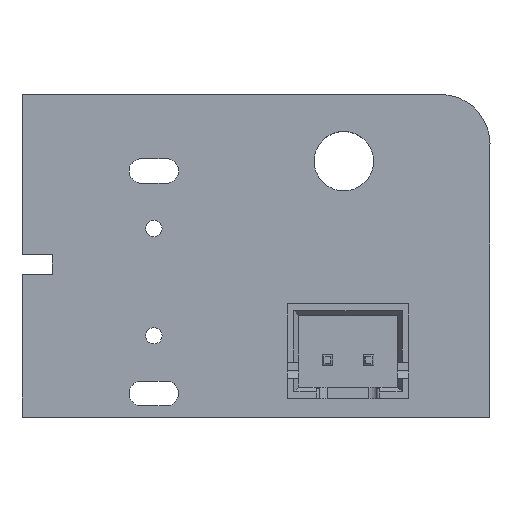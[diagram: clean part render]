
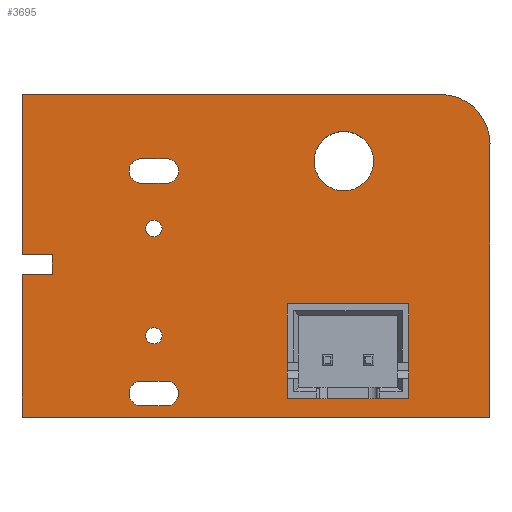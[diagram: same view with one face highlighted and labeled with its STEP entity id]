
A CAD part, top view. The second image highlights one B-rep face of the part: STEP entity #3695.
In plain terms, the highlighted planar face has unit normal (0, 0, 1).
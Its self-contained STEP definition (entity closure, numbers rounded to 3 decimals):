
#3406 = VERTEX_POINT('',#3407);
#3407 = CARTESIAN_POINT('',(66.945,-31.03,1.51));
#3413 = EDGE_CURVE('',#3406,#3414,#3416,.T.);
#3414 = VERTEX_POINT('',#3415);
#3415 = CARTESIAN_POINT('',(69.945,-34.019,1.51));
#3416 = CIRCLE('',#3417,3.);
#3417 = AXIS2_PLACEMENT_3D('',#3418,#3419,#3420);
#3418 = CARTESIAN_POINT('',(66.945,-34.03,1.51));
#3419 = DIRECTION('',(0.,0.,-1.));
#3420 = DIRECTION('',(0.,1.,0.));
#3448 = VERTEX_POINT('',#3449);
#3449 = CARTESIAN_POINT('',(41.55,-31.03,1.51));
#3455 = EDGE_CURVE('',#3448,#3406,#3456,.T.);
#3456 = LINE('',#3457,#3458);
#3457 = CARTESIAN_POINT('',(41.55,-31.03,1.51));
#3458 = VECTOR('',#3459,1.);
#3459 = DIRECTION('',(1.,0.,0.));
#3477 = EDGE_CURVE('',#3414,#3478,#3480,.T.);
#3478 = VERTEX_POINT('',#3479);
#3479 = CARTESIAN_POINT('',(69.945,-50.63,1.51));
#3480 = LINE('',#3481,#3482);
#3481 = CARTESIAN_POINT('',(69.945,-34.019,1.51));
#3482 = VECTOR('',#3483,1.);
#3483 = DIRECTION('',(0.,-1.,0.));
#3695 = ADVANCED_FACE('',(#3696,#3755,#3791,#3802,#3813,#3824,#3835,
    #3871),#3882,.T.);
#3696 = FACE_BOUND('',#3697,.T.);
#3697 = EDGE_LOOP('',(#3698,#3699,#3700,#3708,#3716,#3724,#3732,#3740,
    #3748,#3754));
#3698 = ORIENTED_EDGE('',*,*,#3413,.F.);
#3699 = ORIENTED_EDGE('',*,*,#3455,.F.);
#3700 = ORIENTED_EDGE('',*,*,#3701,.F.);
#3701 = EDGE_CURVE('',#3702,#3448,#3704,.T.);
#3702 = VERTEX_POINT('',#3703);
#3703 = CARTESIAN_POINT('',(41.55,-40.75,1.51));
#3704 = LINE('',#3705,#3706);
#3705 = CARTESIAN_POINT('',(41.55,-40.75,1.51));
#3706 = VECTOR('',#3707,1.);
#3707 = DIRECTION('',(0.,1.,0.));
#3708 = ORIENTED_EDGE('',*,*,#3709,.F.);
#3709 = EDGE_CURVE('',#3710,#3702,#3712,.T.);
#3710 = VERTEX_POINT('',#3711);
#3711 = CARTESIAN_POINT('',(43.4,-40.75,1.51));
#3712 = LINE('',#3713,#3714);
#3713 = CARTESIAN_POINT('',(43.4,-40.75,1.51));
#3714 = VECTOR('',#3715,1.);
#3715 = DIRECTION('',(-1.,0.,0.));
#3716 = ORIENTED_EDGE('',*,*,#3717,.F.);
#3717 = EDGE_CURVE('',#3718,#3710,#3720,.T.);
#3718 = VERTEX_POINT('',#3719);
#3719 = CARTESIAN_POINT('',(43.4,-41.95,1.51));
#3720 = LINE('',#3721,#3722);
#3721 = CARTESIAN_POINT('',(43.4,-41.95,1.51));
#3722 = VECTOR('',#3723,1.);
#3723 = DIRECTION('',(0.,1.,0.));
#3724 = ORIENTED_EDGE('',*,*,#3725,.F.);
#3725 = EDGE_CURVE('',#3726,#3718,#3728,.T.);
#3726 = VERTEX_POINT('',#3727);
#3727 = CARTESIAN_POINT('',(41.55,-41.95,1.51));
#3728 = LINE('',#3729,#3730);
#3729 = CARTESIAN_POINT('',(41.55,-41.95,1.51));
#3730 = VECTOR('',#3731,1.);
#3731 = DIRECTION('',(1.,0.,0.));
#3732 = ORIENTED_EDGE('',*,*,#3733,.F.);
#3733 = EDGE_CURVE('',#3734,#3726,#3736,.T.);
#3734 = VERTEX_POINT('',#3735);
#3735 = CARTESIAN_POINT('',(41.55,-48.887,1.51));
#3736 = LINE('',#3737,#3738);
#3737 = CARTESIAN_POINT('',(41.55,-48.887,1.51));
#3738 = VECTOR('',#3739,1.);
#3739 = DIRECTION('',(0.,1.,0.));
#3740 = ORIENTED_EDGE('',*,*,#3741,.F.);
#3741 = EDGE_CURVE('',#3742,#3734,#3744,.T.);
#3742 = VERTEX_POINT('',#3743);
#3743 = CARTESIAN_POINT('',(41.55,-50.63,1.51));
#3744 = LINE('',#3745,#3746);
#3745 = CARTESIAN_POINT('',(41.55,-50.63,1.51));
#3746 = VECTOR('',#3747,1.);
#3747 = DIRECTION('',(0.,1.,0.));
#3748 = ORIENTED_EDGE('',*,*,#3749,.F.);
#3749 = EDGE_CURVE('',#3478,#3742,#3750,.T.);
#3750 = LINE('',#3751,#3752);
#3751 = CARTESIAN_POINT('',(69.945,-50.63,1.51));
#3752 = VECTOR('',#3753,1.);
#3753 = DIRECTION('',(-1.,0.,0.));
#3754 = ORIENTED_EDGE('',*,*,#3477,.F.);
#3755 = FACE_BOUND('',#3756,.T.);
#3756 = EDGE_LOOP('',(#3757,#3768,#3776,#3785));
#3757 = ORIENTED_EDGE('',*,*,#3758,.T.);
#3758 = EDGE_CURVE('',#3759,#3761,#3763,.T.);
#3759 = VERTEX_POINT('',#3760);
#3760 = CARTESIAN_POINT('',(50.3,-48.42,1.51));
#3761 = VERTEX_POINT('',#3762);
#3762 = CARTESIAN_POINT('',(50.3,-49.92,1.51));
#3763 = CIRCLE('',#3764,0.75);
#3764 = AXIS2_PLACEMENT_3D('',#3765,#3766,#3767);
#3765 = CARTESIAN_POINT('',(50.3,-49.17,1.51));
#3766 = DIRECTION('',(-0.,0.,-1.));
#3767 = DIRECTION('',(-0.,-1.,0.));
#3768 = ORIENTED_EDGE('',*,*,#3769,.T.);
#3769 = EDGE_CURVE('',#3761,#3770,#3772,.T.);
#3770 = VERTEX_POINT('',#3771);
#3771 = CARTESIAN_POINT('',(48.8,-49.92,1.51));
#3772 = LINE('',#3773,#3774);
#3773 = CARTESIAN_POINT('',(24.4,-49.92,1.51));
#3774 = VECTOR('',#3775,1.);
#3775 = DIRECTION('',(-1.,0.,0.));
#3776 = ORIENTED_EDGE('',*,*,#3777,.T.);
#3777 = EDGE_CURVE('',#3770,#3778,#3780,.T.);
#3778 = VERTEX_POINT('',#3779);
#3779 = CARTESIAN_POINT('',(48.8,-48.42,1.51));
#3780 = CIRCLE('',#3781,0.75);
#3781 = AXIS2_PLACEMENT_3D('',#3782,#3783,#3784);
#3782 = CARTESIAN_POINT('',(48.8,-49.17,1.51));
#3783 = DIRECTION('',(-0.,0.,-1.));
#3784 = DIRECTION('',(0.,1.,0.));
#3785 = ORIENTED_EDGE('',*,*,#3786,.T.);
#3786 = EDGE_CURVE('',#3778,#3759,#3787,.T.);
#3787 = LINE('',#3788,#3789);
#3788 = CARTESIAN_POINT('',(25.15,-48.42,1.51));
#3789 = VECTOR('',#3790,1.);
#3790 = DIRECTION('',(1.,0.,-0.));
#3791 = FACE_BOUND('',#3792,.T.);
#3792 = EDGE_LOOP('',(#3793));
#3793 = ORIENTED_EDGE('',*,*,#3794,.T.);
#3794 = EDGE_CURVE('',#3795,#3795,#3797,.T.);
#3795 = VERTEX_POINT('',#3796);
#3796 = CARTESIAN_POINT('',(49.55,-46.17,1.51));
#3797 = CIRCLE('',#3798,0.5);
#3798 = AXIS2_PLACEMENT_3D('',#3799,#3800,#3801);
#3799 = CARTESIAN_POINT('',(49.55,-45.67,1.51));
#3800 = DIRECTION('',(-0.,0.,-1.));
#3801 = DIRECTION('',(-0.,-1.,0.));
#3802 = FACE_BOUND('',#3803,.T.);
#3803 = EDGE_LOOP('',(#3804));
#3804 = ORIENTED_EDGE('',*,*,#3805,.T.);
#3805 = EDGE_CURVE('',#3806,#3806,#3808,.T.);
#3806 = VERTEX_POINT('',#3807);
#3807 = CARTESIAN_POINT('',(60.08,-47.68,1.51));
#3808 = CIRCLE('',#3809,0.525);
#3809 = AXIS2_PLACEMENT_3D('',#3810,#3811,#3812);
#3810 = CARTESIAN_POINT('',(60.08,-47.155,1.51));
#3811 = DIRECTION('',(-0.,0.,-1.));
#3812 = DIRECTION('',(-0.,-1.,0.));
#3813 = FACE_BOUND('',#3814,.T.);
#3814 = EDGE_LOOP('',(#3815));
#3815 = ORIENTED_EDGE('',*,*,#3816,.T.);
#3816 = EDGE_CURVE('',#3817,#3817,#3819,.T.);
#3817 = VERTEX_POINT('',#3818);
#3818 = CARTESIAN_POINT('',(62.58,-47.68,1.51));
#3819 = CIRCLE('',#3820,0.525);
#3820 = AXIS2_PLACEMENT_3D('',#3821,#3822,#3823);
#3821 = CARTESIAN_POINT('',(62.58,-47.155,1.51));
#3822 = DIRECTION('',(-0.,0.,-1.));
#3823 = DIRECTION('',(-0.,-1.,0.));
#3824 = FACE_BOUND('',#3825,.T.);
#3825 = EDGE_LOOP('',(#3826));
#3826 = ORIENTED_EDGE('',*,*,#3827,.T.);
#3827 = EDGE_CURVE('',#3828,#3828,#3830,.T.);
#3828 = VERTEX_POINT('',#3829);
#3829 = CARTESIAN_POINT('',(49.55,-39.67,1.51));
#3830 = CIRCLE('',#3831,0.5);
#3831 = AXIS2_PLACEMENT_3D('',#3832,#3833,#3834);
#3832 = CARTESIAN_POINT('',(49.55,-39.17,1.51));
#3833 = DIRECTION('',(-0.,0.,-1.));
#3834 = DIRECTION('',(-0.,-1.,0.));
#3835 = FACE_BOUND('',#3836,.T.);
#3836 = EDGE_LOOP('',(#3837,#3848,#3856,#3865));
#3837 = ORIENTED_EDGE('',*,*,#3838,.T.);
#3838 = EDGE_CURVE('',#3839,#3841,#3843,.T.);
#3839 = VERTEX_POINT('',#3840);
#3840 = CARTESIAN_POINT('',(50.3,-34.92,1.51));
#3841 = VERTEX_POINT('',#3842);
#3842 = CARTESIAN_POINT('',(50.3,-36.42,1.51));
#3843 = CIRCLE('',#3844,0.75);
#3844 = AXIS2_PLACEMENT_3D('',#3845,#3846,#3847);
#3845 = CARTESIAN_POINT('',(50.3,-35.67,1.51));
#3846 = DIRECTION('',(-0.,0.,-1.));
#3847 = DIRECTION('',(-0.,-1.,0.));
#3848 = ORIENTED_EDGE('',*,*,#3849,.T.);
#3849 = EDGE_CURVE('',#3841,#3850,#3852,.T.);
#3850 = VERTEX_POINT('',#3851);
#3851 = CARTESIAN_POINT('',(48.8,-36.42,1.51));
#3852 = LINE('',#3853,#3854);
#3853 = CARTESIAN_POINT('',(24.4,-36.42,1.51));
#3854 = VECTOR('',#3855,1.);
#3855 = DIRECTION('',(-1.,0.,0.));
#3856 = ORIENTED_EDGE('',*,*,#3857,.T.);
#3857 = EDGE_CURVE('',#3850,#3858,#3860,.T.);
#3858 = VERTEX_POINT('',#3859);
#3859 = CARTESIAN_POINT('',(48.8,-34.92,1.51));
#3860 = CIRCLE('',#3861,0.75);
#3861 = AXIS2_PLACEMENT_3D('',#3862,#3863,#3864);
#3862 = CARTESIAN_POINT('',(48.8,-35.67,1.51));
#3863 = DIRECTION('',(-0.,0.,-1.));
#3864 = DIRECTION('',(0.,1.,0.));
#3865 = ORIENTED_EDGE('',*,*,#3866,.T.);
#3866 = EDGE_CURVE('',#3858,#3839,#3867,.T.);
#3867 = LINE('',#3868,#3869);
#3868 = CARTESIAN_POINT('',(25.15,-34.92,1.51));
#3869 = VECTOR('',#3870,1.);
#3870 = DIRECTION('',(1.,0.,-0.));
#3871 = FACE_BOUND('',#3872,.T.);
#3872 = EDGE_LOOP('',(#3873));
#3873 = ORIENTED_EDGE('',*,*,#3874,.F.);
#3874 = EDGE_CURVE('',#3875,#3875,#3877,.T.);
#3875 = VERTEX_POINT('',#3876);
#3876 = CARTESIAN_POINT('',(62.875,-35.08,1.51));
#3877 = CIRCLE('',#3878,1.8);
#3878 = AXIS2_PLACEMENT_3D('',#3879,#3880,#3881);
#3879 = CARTESIAN_POINT('',(61.075,-35.08,1.51));
#3880 = DIRECTION('',(0.,0.,1.));
#3881 = DIRECTION('',(1.,0.,-0.));
#3882 = PLANE('',#3883);
#3883 = AXIS2_PLACEMENT_3D('',#3884,#3885,#3886);
#3884 = CARTESIAN_POINT('',(0.,0.,1.51));
#3885 = DIRECTION('',(0.,0.,1.));
#3886 = DIRECTION('',(1.,0.,-0.));
